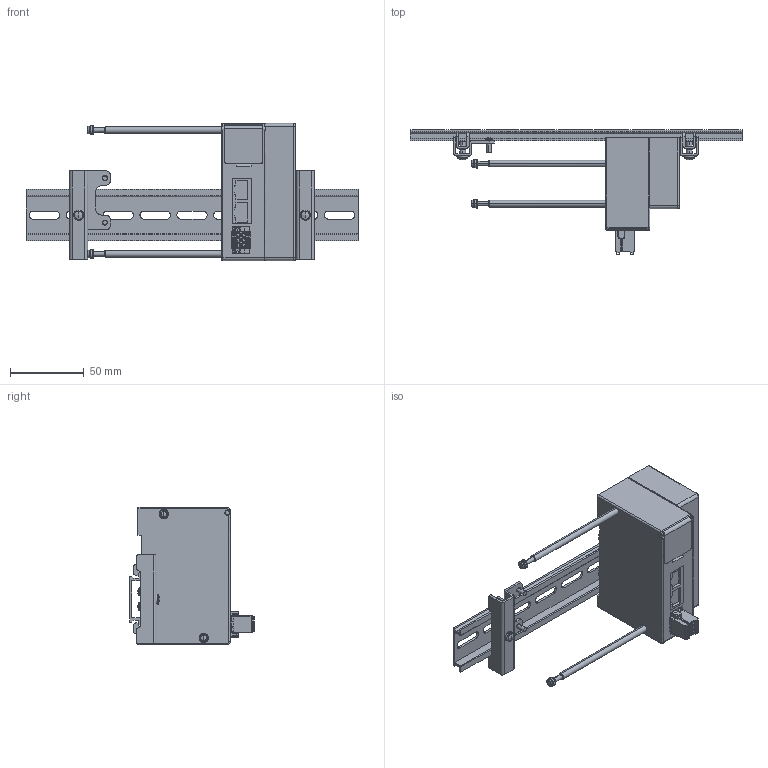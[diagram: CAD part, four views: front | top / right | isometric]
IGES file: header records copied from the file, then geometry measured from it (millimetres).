
Start section: ------------------------------------------------------------------------
Bounding box: 225 x 84.4 x 93 mm (x, y, z)
Volume: 282481.6 mm3; surface area: 68858.6 mm2
Topology: 4 solids, 4 shells, 1027 faces, 2703 edges, 1737 vertices
Faces by surface type: bspline 1027
